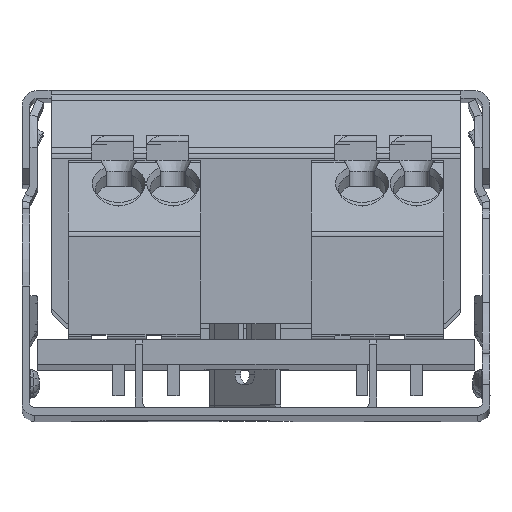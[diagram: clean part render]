
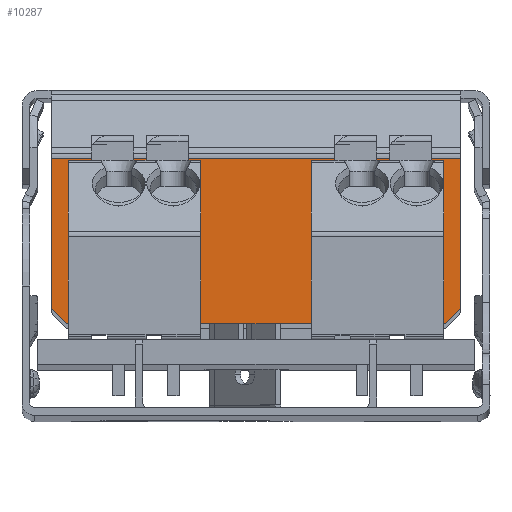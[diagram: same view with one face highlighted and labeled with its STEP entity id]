
A CAD part, top view. The second image highlights one B-rep face of the part: STEP entity #10287.
In plain terms, the highlighted planar face has unit normal (0, 0, 1).
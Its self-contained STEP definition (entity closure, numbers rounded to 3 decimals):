
#67 = ORIENTED_EDGE ( 'NONE', *, *, #17302, .F. ) ;
#501 = DIRECTION ( 'NONE',  ( 0.707, -0.707, 0. ) ) ;
#1261 = DIRECTION ( 'NONE',  ( 0., 0., 1. ) ) ;
#1500 = CARTESIAN_POINT ( 'NONE',  ( 105.652, 111.099, 263.555 ) ) ;
#4032 = CARTESIAN_POINT ( 'NONE',  ( 106.652, 112.099, 263.555 ) ) ;
#4169 = EDGE_CURVE ( 'NONE', #10784, #38162, #19162, .T. ) ;
#4962 = VERTEX_POINT ( 'NONE', #39589 ) ;
#5654 = LINE ( 'NONE', #31273, #41075 ) ;
#6714 = CARTESIAN_POINT ( 'NONE',  ( 106.652, 111.099, 263.555 ) ) ;
#6875 = DIRECTION ( 'NONE',  ( 1., 0., 0. ) ) ;
#7459 = DIRECTION ( 'NONE',  ( 0., -1., 0. ) ) ;
#7817 = EDGE_CURVE ( 'NONE', #38162, #4962, #23744, .T. ) ;
#7865 = DIRECTION ( 'NONE',  ( 0.707, 0.707, 0. ) ) ;
#9479 = LINE ( 'NONE', #19524, #26694 ) ;
#10287 = ADVANCED_FACE ( 'NONE', ( #23577 ), #21803, .T. ) ;
#10784 = VERTEX_POINT ( 'NONE', #35735 ) ;
#11018 = CARTESIAN_POINT ( 'NONE',  ( 105.652, 111.099, 263.555 ) ) ;
#13666 = CARTESIAN_POINT ( 'NONE',  ( 80.381, 112.099, 263.555 ) ) ;
#13725 = VERTEX_POINT ( 'NONE', #13666 ) ;
#14093 = VECTOR ( 'NONE', #501, 1000. ) ;
#14232 = ORIENTED_EDGE ( 'NONE', *, *, #7817, .T. ) ;
#17302 = EDGE_CURVE ( 'NONE', #13725, #21906, #5654, .T. ) ;
#17774 = AXIS2_PLACEMENT_3D ( 'NONE', #35470, #1261, #25261 ) ;
#18849 = EDGE_CURVE ( 'NONE', #13725, #10784, #32408, .T. ) ;
#19162 = LINE ( 'NONE', #6714, #27228 ) ;
#19524 = CARTESIAN_POINT ( 'NONE',  ( 106.652, 121.681, 263.555 ) ) ;
#21803 = PLANE ( 'NONE',  #17774 ) ;
#21906 = VERTEX_POINT ( 'NONE', #34763 ) ;
#23577 = FACE_OUTER_BOUND ( 'NONE', #24884, .T. ) ;
#23744 = LINE ( 'NONE', #11018, #40894 ) ;
#24282 = ORIENTED_EDGE ( 'NONE', *, *, #28173, .F. ) ;
#24884 = EDGE_LOOP ( 'NONE', ( #14232, #27260, #24282, #67, #26693, #30500 ) ) ;
#25261 = DIRECTION ( 'NONE',  ( 1., 0., 0. ) ) ;
#26693 = ORIENTED_EDGE ( 'NONE', *, *, #18849, .T. ) ;
#26694 = VECTOR ( 'NONE', #36645, 1000. ) ;
#26749 = LINE ( 'NONE', #4032, #43944 ) ;
#27228 = VECTOR ( 'NONE', #6875, 1000. ) ;
#27260 = ORIENTED_EDGE ( 'NONE', *, *, #36504, .F. ) ;
#28173 = EDGE_CURVE ( 'NONE', #21906, #33948, #9479, .T. ) ;
#30500 = ORIENTED_EDGE ( 'NONE', *, *, #4169, .T. ) ;
#31273 = CARTESIAN_POINT ( 'NONE',  ( 80.381, 112.099, 263.555 ) ) ;
#32408 = LINE ( 'NONE', #34873, #14093 ) ;
#33948 = VERTEX_POINT ( 'NONE', #43538 ) ;
#34763 = CARTESIAN_POINT ( 'NONE',  ( 80.381, 121.681, 263.555 ) ) ;
#34873 = CARTESIAN_POINT ( 'NONE',  ( 80.381, 112.099, 263.555 ) ) ;
#35470 = CARTESIAN_POINT ( 'NONE',  ( 106.652, 121.681, 263.555 ) ) ;
#35735 = CARTESIAN_POINT ( 'NONE',  ( 81.381, 111.099, 263.555 ) ) ;
#36504 = EDGE_CURVE ( 'NONE', #33948, #4962, #26749, .T. ) ;
#36645 = DIRECTION ( 'NONE',  ( 1., 0., 0. ) ) ;
#38162 = VERTEX_POINT ( 'NONE', #1500 ) ;
#38187 = DIRECTION ( 'NONE',  ( 0., 1., 0. ) ) ;
#39589 = CARTESIAN_POINT ( 'NONE',  ( 106.652, 112.099, 263.555 ) ) ;
#40894 = VECTOR ( 'NONE', #7865, 1000. ) ;
#41075 = VECTOR ( 'NONE', #38187, 1000. ) ;
#43538 = CARTESIAN_POINT ( 'NONE',  ( 106.652, 121.681, 263.555 ) ) ;
#43944 = VECTOR ( 'NONE', #7459, 1000. ) ;
